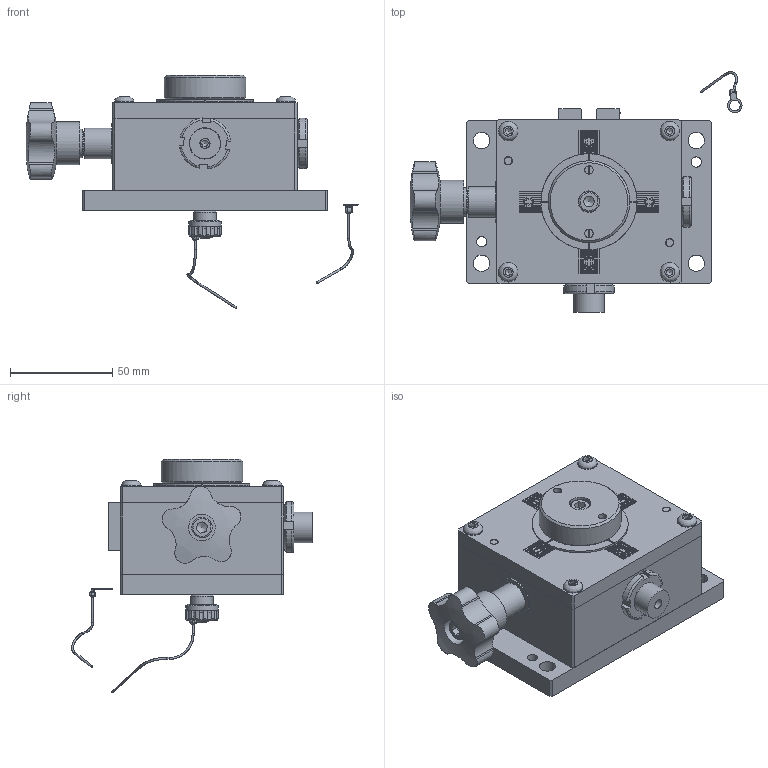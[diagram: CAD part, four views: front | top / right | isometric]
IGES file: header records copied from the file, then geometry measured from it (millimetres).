
Global section: file name: 146.00-SX-L-Y; native system: Autodesk Inventor 2019; preprocessor: unknown; author: AP; date: 20200220.145556; units: millimetre
Bounding box: 162.33 x 117.72 x 114.1 mm (x, y, z)
Volume: 392657.3 mm3; surface area: 134942.7 mm2
Topology: 44 solids, 44 shells, 1074 faces, 2787 edges, 1899 vertices
Faces by surface type: bspline 1074
